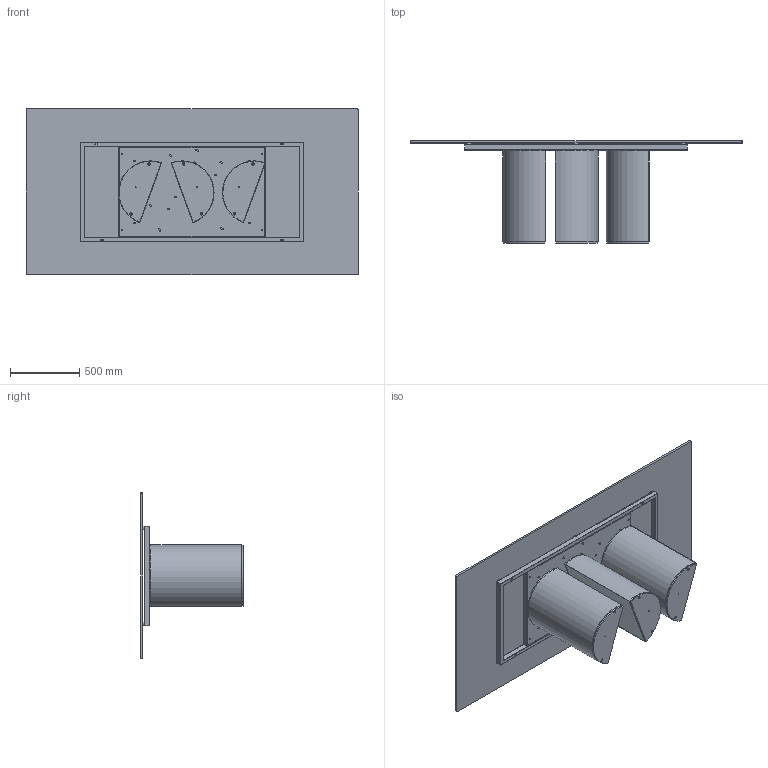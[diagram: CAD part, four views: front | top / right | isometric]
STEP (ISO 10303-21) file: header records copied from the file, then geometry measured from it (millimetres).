
FILE_DESCRIPTION (( 'STEP AP203' ), '1' );
FILE_NAME ('PL23G.STEP', '2024-08-07T13:52:18', ( '' ), ( '' ), 'SwSTEP 2.0', 'SolidWorks 2022', '' );
FILE_SCHEMA (( 'CONFIG_CONTROL_DESIGN' ));
Length unit declared in the file: millimetre
Products named in the file (14): PLA000000ZOC-01-PLAI ZOCCOLO DELLA BASE; M8xXXmm_hex_M8X60mm; M8xXXmm_M8x20mm; TTAV0601_02-00-VASSOIO TAVOLI PLAI ONDA NOA 240; TTAV0601_01-00-STRUTTURA X TAVOLI PLAI ONDA NOA 240; Assieme Basamento PLAI_Basamento per tavoli; C2XCRXX-00-Piani Rettangolari Cristallo_23 2400x1200; COLLO TELAIO UNIVERSALE TTAV0601 CON FERRAMENTA_FERRAMENTA MTG TOP CRISTALLO VERNICIATO-CERAMICA; M8xXXmm_hex_M8X20mm; 434070-00-PIEDINO TPV GOMMA NERO D. 30x8max18_filo estetico; PLA000000BAS-00-PLAI BASE GREZZA; TTAV0601-00-TELAIO X TAVOLI PLAI ONDA NOA 240cm_TTAV06; PL23G; rondella M8_8X24
Assembly tree (30 placements, depth 4):
  PL23G
    COLLO TELAIO UNIVERSALE TTAV0601 CON FERRAMENTA_FERRAMENTA MTG TOP CRISTALLO VERNICIATO-CERAMICA
      TTAV0601-00-TELAIO X TAVOLI PLAI ONDA NOA 240cm_TTAV06
        TTAV0601_02-00-VASSOIO TAVOLI PLAI ONDA NOA 240
        TTAV0601_01-00-STRUTTURA X TAVOLI PLAI ONDA NOA 240
      434070-00-PIEDINO TPV GOMMA NERO D. 30x8max18_filo estetico  x6
    Assieme Basamento PLAI_Basamento per tavoli  x3
      PLA000000BAS-00-PLAI BASE GREZZA
      PLA000000ZOC-01-PLAI ZOCCOLO DELLA BASE
      M8xXXmm_hex_M8X60mm
      M8xXXmm_hex_M8X20mm
    rondella M8_8X24  x6
    M8xXXmm_M8x20mm  x6
    C2XCRXX-00-Piani Rettangolari Cristallo_23 2400x1200
Bounding box: 2400 x 739 x 1200 mm (x, y, z)
Volume: 55973539.2 mm3; surface area: 14515358.5 mm2
Topology: 48 solids, 48 shells, 1116 faces, 2498 edges, 1460 vertices
Faces by surface type: plane 471, cylinder 329, cone 200, torus 108, sphere 8
Entity records: 18689 total; most frequent: DIRECTION 3093, CARTESIAN_POINT 2880, ORIENTED_EDGE 2720, EDGE_CURVE 1360, AXIS2_PLACEMENT_3D 1147, VERTEX_POINT 816, LINE 799, VECTOR 799
